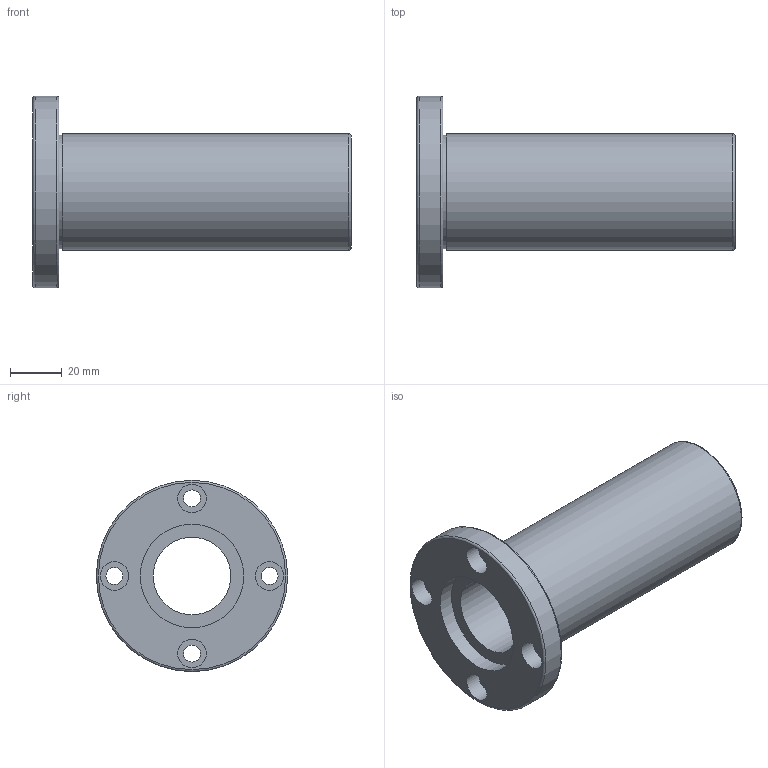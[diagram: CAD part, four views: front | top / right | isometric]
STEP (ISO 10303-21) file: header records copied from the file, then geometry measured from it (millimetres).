
FILE_DESCRIPTION( ( 'Unknown' ), '1' );
FILE_NAME( 'D:/累诀/己绕皋墨飘肺葱胶/11-04-06_档搁累己/01_府聪绢何教/LMF L/LMF 30L.stp', 'Unknown', ( 'Unknown' ), ( 'Unknown' ), 'PSStep 11.0', 'Unknown', ' ' );
FILE_SCHEMA( ( 'AUTOMOTIVE_DESIGN { 1 0 10303 214 1 1 1 1 }' ) );
Length unit declared in the file: millimetre
Products named in the file (1): 1
Bounding box: 123 x 74 x 74 mm (x, y, z)
Volume: 125883.8 mm3; surface area: 38307.8 mm2
Topology: 1 solids, 1 shells, 27 faces, 52 edges, 35 vertices
Faces by surface type: cylinder 14, plane 10, torus 3
Full cylindrical faces by diameter (mm): 6.6 x4, 11 x4, 30 x1, 40 x2, 44 x1, 45 x1, 74 x1
Entity records: 836 total; most frequent: DIRECTION 118, CARTESIAN_POINT 90, EDGE_LOOP 62, ORIENTED_EDGE 62, AXIS2_PLACEMENT_3D 59, FACE_OUTER_BOUND 44, EDGE_CURVE 31, VERTEX_POINT 31
